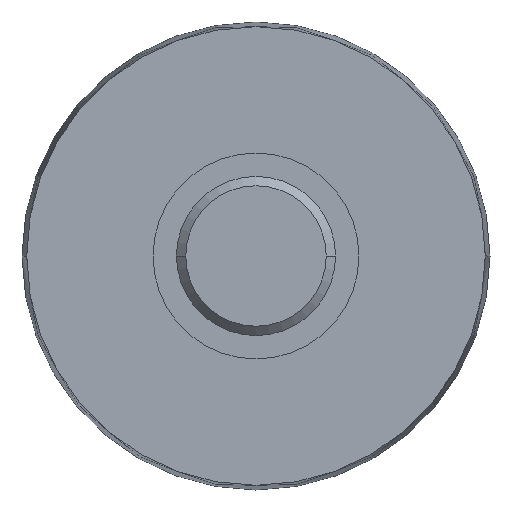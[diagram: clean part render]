
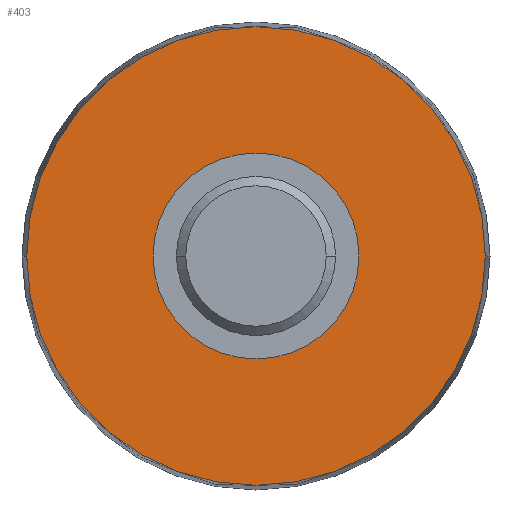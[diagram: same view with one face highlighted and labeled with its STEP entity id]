
A CAD part, left-side view. The second image highlights one B-rep face of the part: STEP entity #403.
In plain terms, the highlighted planar face has unit normal (-1, 0, 0).
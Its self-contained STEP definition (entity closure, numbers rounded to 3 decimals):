
#17 = CARTESIAN_POINT ( 'NONE',  ( 24.5, 0., 0. ) ) ;
#30 = AXIS2_PLACEMENT_3D ( 'NONE', #17, #32, #31 ) ;
#31 = DIRECTION ( 'NONE',  ( 0., -1., 0. ) ) ;
#32 = DIRECTION ( 'NONE',  ( -1., 0., 0. ) ) ;
#41 = CIRCLE ( 'NONE', #30, 11. ) ;
#178 = CARTESIAN_POINT ( 'NONE',  ( 24.5, 0., 0. ) ) ;
#188 = CIRCLE ( 'NONE', #192, 24.5 ) ;
#190 = DIRECTION ( 'NONE',  ( 0., -1., 0. ) ) ;
#191 = DIRECTION ( 'NONE',  ( -1., 0., 0. ) ) ;
#192 = AXIS2_PLACEMENT_3D ( 'NONE', #178, #191, #190 ) ;
#213 = AXIS2_PLACEMENT_3D ( 'NONE', #218, #217, #238 ) ;
#215 = PLANE ( 'NONE',  #213 ) ;
#217 = DIRECTION ( 'NONE',  ( 1., 0., 0. ) ) ;
#218 = CARTESIAN_POINT ( 'NONE',  ( 24.5, 24.5, 0. ) ) ;
#226 = FACE_BOUND ( 'NONE', #445, .T. ) ;
#230 = CARTESIAN_POINT ( 'NONE',  ( 24.5, -24.5, 0. ) ) ;
#238 = DIRECTION ( 'NONE',  ( 0., 1., 0. ) ) ;
#239 = FACE_OUTER_BOUND ( 'NONE', #472, .T. ) ;
#240 = CARTESIAN_POINT ( 'NONE',  ( 24.5, 24.5, 0. ) ) ;
#341 = EDGE_CURVE ( 'NONE', #348, #343, #626, .T. ) ;
#343 = VERTEX_POINT ( 'NONE', #636 ) ;
#348 = VERTEX_POINT ( 'NONE', #613 ) ;
#381 = EDGE_CURVE ( 'NONE', #386, #387, #655, .T. ) ;
#386 = VERTEX_POINT ( 'NONE', #230 ) ;
#387 = VERTEX_POINT ( 'NONE', #240 ) ;
#403 = ADVANCED_FACE ( 'NONE', ( #226, #239 ), #215, .F. ) ;
#444 = ORIENTED_EDGE ( 'NONE', *, *, #474, .F. ) ;
#445 = EDGE_LOOP ( 'NONE', ( #446, #444 ) ) ;
#446 = ORIENTED_EDGE ( 'NONE', *, *, #341, .F. ) ;
#468 = ORIENTED_EDGE ( 'NONE', *, *, #565, .T. ) ;
#472 = EDGE_LOOP ( 'NONE', ( #468, #524 ) ) ;
#474 = EDGE_CURVE ( 'NONE', #343, #348, #41, .T. ) ;
#524 = ORIENTED_EDGE ( 'NONE', *, *, #381, .T. ) ;
#565 = EDGE_CURVE ( 'NONE', #387, #386, #188, .T. ) ;
#613 = CARTESIAN_POINT ( 'NONE',  ( 24.5, -11., 0. ) ) ;
#626 = CIRCLE ( 'NONE', #634, 11. ) ;
#631 = DIRECTION ( 'NONE',  ( 0., -1., 0. ) ) ;
#632 = DIRECTION ( 'NONE',  ( -1., 0., 0. ) ) ;
#633 = CARTESIAN_POINT ( 'NONE',  ( 24.5, 0., 0. ) ) ;
#634 = AXIS2_PLACEMENT_3D ( 'NONE', #633, #632, #631 ) ;
#636 = CARTESIAN_POINT ( 'NONE',  ( 24.5, 11., 0. ) ) ;
#651 = DIRECTION ( 'NONE',  ( 0., -1., 0. ) ) ;
#652 = DIRECTION ( 'NONE',  ( -1., 0., 0. ) ) ;
#653 = CARTESIAN_POINT ( 'NONE',  ( 24.5, 0., 0. ) ) ;
#654 = AXIS2_PLACEMENT_3D ( 'NONE', #653, #652, #651 ) ;
#655 = CIRCLE ( 'NONE', #654, 24.5 ) ;
